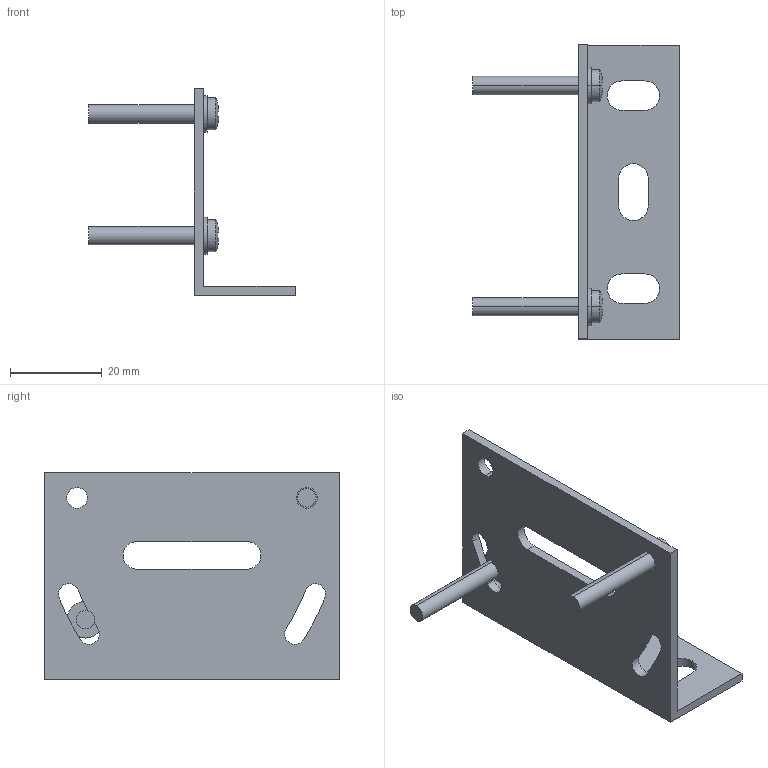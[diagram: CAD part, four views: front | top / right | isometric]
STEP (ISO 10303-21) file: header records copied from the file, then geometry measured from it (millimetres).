
FILE_DESCRIPTION (( 'STEP AP203' ), '1' );
FILE_NAME ('MS-NX5-3.STEP', '2005-10-26T07:25:09', ( '' ), ( '' ), 'SwSTEP 2.0', 'SolidWorks 2004073', '' );
FILE_SCHEMA (( 'CONFIG_CONTROL_DESIGN' ));
Length unit declared in the file: millimetre
Products named in the file (3): MS-NX5-3; MS-NX5-3_蹬怮椔; M4L25add_fw_蹬怮椔
Assembly tree (3 placements, depth 2):
  MS-NX5-3
    M4L25add_fw_蹬怮椔  x2
    MS-NX5-3_蹬怮椔
Bounding box: 45 x 64 x 45 mm (x, y, z)
Volume: 8130.9 mm3; surface area: 9304.1 mm2
Topology: 3 solids, 3 shells, 88 faces, 230 edges, 152 vertices
Faces by surface type: plane 48, cylinder 36, sphere 4
Entity records: 2405 total; most frequent: DIRECTION 388, CARTESIAN_POINT 356, ORIENTED_EDGE 344, EDGE_CURVE 172, AXIS2_PLACEMENT_3D 146, VERTEX_POINT 114, LINE 96, VECTOR 96
